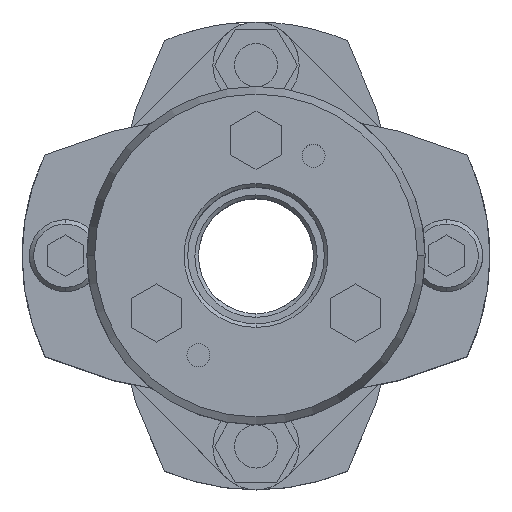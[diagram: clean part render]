
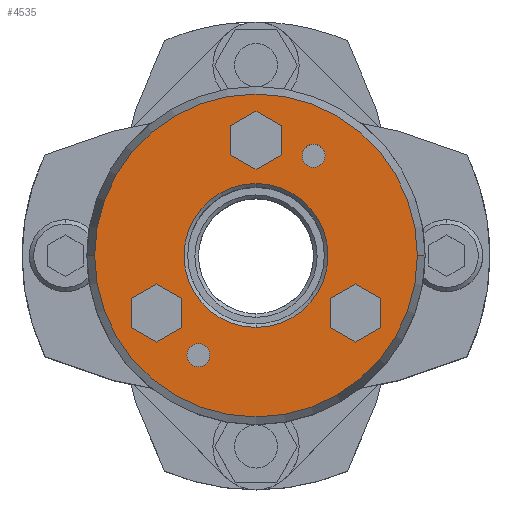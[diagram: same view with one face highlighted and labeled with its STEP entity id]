
A CAD part, top view. The second image highlights one B-rep face of the part: STEP entity #4535.
In plain terms, the highlighted planar face has unit normal (0, 0, 1).
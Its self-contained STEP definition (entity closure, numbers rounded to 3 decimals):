
#2241=CARTESIAN_POINT('',(-22.428,0.,40.0));
#2242=VERTEX_POINT('',#2241);
#2251=CARTESIAN_POINT('',(22.428,0.,40.0));
#2252=VERTEX_POINT('',#2251);
#2253=CARTESIAN_POINT('',(0.,0.,40.0));
#2254=DIRECTION('',(0.0,0.0,-1.0));
#2255=DIRECTION('',(-1.0,0.0,0.0));
#2256=AXIS2_PLACEMENT_3D('',#2253,#2254,#2255);
#2257=CIRCLE('',#2256,22.428);
#2258=EDGE_CURVE('',#2242,#2252,#2257,.T.);
#2285=CARTESIAN_POINT('',(0.,10.,40.0));
#2286=VERTEX_POINT('',#2285);
#2302=CARTESIAN_POINT('',(0.,-10.,40.0));
#2303=VERTEX_POINT('',#2302);
#2310=CARTESIAN_POINT('',(0.,0.,40.0));
#2311=DIRECTION('',(0.0,0.0,1.0));
#2312=DIRECTION('',(0.0,1.0,0.0));
#2313=AXIS2_PLACEMENT_3D('',#2310,#2311,#2312);
#2314=CIRCLE('',#2313,10.0);
#2315=EDGE_CURVE('',#2303,#2286,#2314,.T.);
#2723=CARTESIAN_POINT('',(8.,15.456,40.0));
#2724=VERTEX_POINT('',#2723);
#2740=CARTESIAN_POINT('',(8.,12.256,40.0));
#2741=VERTEX_POINT('',#2740);
#2748=CARTESIAN_POINT('',(8.,13.856,40.0));
#2749=DIRECTION('',(0.0,0.0,-1.0));
#2750=DIRECTION('',(0.0,1.0,0.0));
#2751=AXIS2_PLACEMENT_3D('',#2748,#2749,#2750);
#2752=CIRCLE('',#2751,1.6);
#2753=EDGE_CURVE('',#2724,#2741,#2752,.T.);
#2765=CARTESIAN_POINT('',(-8.,-12.256,40.0));
#2766=VERTEX_POINT('',#2765);
#2782=CARTESIAN_POINT('',(-8.,-15.456,40.0));
#2783=VERTEX_POINT('',#2782);
#2790=CARTESIAN_POINT('',(-8.,-13.856,40.0));
#2791=DIRECTION('',(0.0,0.0,-1.0));
#2792=DIRECTION('',(0.0,1.0,0.0));
#2793=AXIS2_PLACEMENT_3D('',#2790,#2791,#2792);
#2794=CIRCLE('',#2793,1.6);
#2795=EDGE_CURVE('',#2766,#2783,#2794,.T.);
#2897=CARTESIAN_POINT('',(0.,20.041,40.0));
#2898=VERTEX_POINT('',#2897);
#2905=CARTESIAN_POINT('',(-3.5,18.021,40.0));
#2906=VERTEX_POINT('',#2905);
#2907=CARTESIAN_POINT('',(-3.5,18.021,40.0));
#2908=DIRECTION('',(0.866,0.5,0.0));
#2909=VECTOR('',#2908,4.041);
#2910=LINE('',#2907,#2909);
#2911=EDGE_CURVE('',#2906,#2898,#2910,.T.);
#2935=CARTESIAN_POINT('',(3.5,18.021,40.0));
#2936=VERTEX_POINT('',#2935);
#2943=CARTESIAN_POINT('',(0.,20.041,40.0));
#2944=DIRECTION('',(0.866,-0.5,0.0));
#2945=VECTOR('',#2944,4.041);
#2946=LINE('',#2943,#2945);
#2947=EDGE_CURVE('',#2898,#2936,#2946,.T.);
#2966=CARTESIAN_POINT('',(3.5,13.979,40.0));
#2967=VERTEX_POINT('',#2966);
#2974=CARTESIAN_POINT('',(3.5,18.021,40.0));
#2975=DIRECTION('',(0.0,-1.0,0.0));
#2976=VECTOR('',#2975,4.041);
#2977=LINE('',#2974,#2976);
#2978=EDGE_CURVE('',#2936,#2967,#2977,.T.);
#2997=CARTESIAN_POINT('',(0.,11.959,40.0));
#2998=VERTEX_POINT('',#2997);
#3005=CARTESIAN_POINT('',(3.5,13.979,40.0));
#3006=DIRECTION('',(-0.866,-0.5,0.0));
#3007=VECTOR('',#3006,4.041);
#3008=LINE('',#3005,#3007);
#3009=EDGE_CURVE('',#2967,#2998,#3008,.T.);
#3028=CARTESIAN_POINT('',(-3.5,13.979,40.0));
#3029=VERTEX_POINT('',#3028);
#3036=CARTESIAN_POINT('',(0.,11.959,40.0));
#3037=DIRECTION('',(-0.866,0.5,0.0));
#3038=VECTOR('',#3037,4.041);
#3039=LINE('',#3036,#3038);
#3040=EDGE_CURVE('',#2998,#3029,#3039,.T.);
#3058=CARTESIAN_POINT('',(-3.5,13.979,40.0));
#3059=DIRECTION('',(0.0,1.0,0.0));
#3060=VECTOR('',#3059,4.041);
#3061=LINE('',#3058,#3060);
#3062=EDGE_CURVE('',#3029,#2906,#3061,.T.);
#3097=CARTESIAN_POINT('',(13.856,-3.959,40.0));
#3098=VERTEX_POINT('',#3097);
#3105=CARTESIAN_POINT('',(10.356,-5.979,40.0));
#3106=VERTEX_POINT('',#3105);
#3107=CARTESIAN_POINT('',(10.356,-5.979,40.0));
#3108=DIRECTION('',(0.866,0.5,0.0));
#3109=VECTOR('',#3108,4.041);
#3110=LINE('',#3107,#3109);
#3111=EDGE_CURVE('',#3106,#3098,#3110,.T.);
#3135=CARTESIAN_POINT('',(17.356,-5.979,40.0));
#3136=VERTEX_POINT('',#3135);
#3143=CARTESIAN_POINT('',(13.856,-3.959,40.0));
#3144=DIRECTION('',(0.866,-0.5,0.0));
#3145=VECTOR('',#3144,4.041);
#3146=LINE('',#3143,#3145);
#3147=EDGE_CURVE('',#3098,#3136,#3146,.T.);
#3166=CARTESIAN_POINT('',(17.356,-10.021,40.0));
#3167=VERTEX_POINT('',#3166);
#3174=CARTESIAN_POINT('',(17.356,-5.979,40.0));
#3175=DIRECTION('',(0.0,-1.0,0.0));
#3176=VECTOR('',#3175,4.041);
#3177=LINE('',#3174,#3176);
#3178=EDGE_CURVE('',#3136,#3167,#3177,.T.);
#3197=CARTESIAN_POINT('',(13.856,-12.041,40.0));
#3198=VERTEX_POINT('',#3197);
#3205=CARTESIAN_POINT('',(17.356,-10.021,40.0));
#3206=DIRECTION('',(-0.866,-0.5,0.0));
#3207=VECTOR('',#3206,4.041);
#3208=LINE('',#3205,#3207);
#3209=EDGE_CURVE('',#3167,#3198,#3208,.T.);
#3228=CARTESIAN_POINT('',(10.356,-10.021,40.0));
#3229=VERTEX_POINT('',#3228);
#3236=CARTESIAN_POINT('',(13.856,-12.041,40.0));
#3237=DIRECTION('',(-0.866,0.5,0.0));
#3238=VECTOR('',#3237,4.041);
#3239=LINE('',#3236,#3238);
#3240=EDGE_CURVE('',#3198,#3229,#3239,.T.);
#3258=CARTESIAN_POINT('',(10.356,-10.021,40.0));
#3259=DIRECTION('',(0.0,1.0,0.0));
#3260=VECTOR('',#3259,4.041);
#3261=LINE('',#3258,#3260);
#3262=EDGE_CURVE('',#3229,#3106,#3261,.T.);
#3297=CARTESIAN_POINT('',(-13.856,-3.959,40.0));
#3298=VERTEX_POINT('',#3297);
#3305=CARTESIAN_POINT('',(-17.356,-5.979,40.0));
#3306=VERTEX_POINT('',#3305);
#3307=CARTESIAN_POINT('',(-17.356,-5.979,40.0));
#3308=DIRECTION('',(0.866,0.5,0.0));
#3309=VECTOR('',#3308,4.041);
#3310=LINE('',#3307,#3309);
#3311=EDGE_CURVE('',#3306,#3298,#3310,.T.);
#3335=CARTESIAN_POINT('',(-10.356,-5.979,40.0));
#3336=VERTEX_POINT('',#3335);
#3343=CARTESIAN_POINT('',(-13.856,-3.959,40.0));
#3344=DIRECTION('',(0.866,-0.5,0.0));
#3345=VECTOR('',#3344,4.041);
#3346=LINE('',#3343,#3345);
#3347=EDGE_CURVE('',#3298,#3336,#3346,.T.);
#3366=CARTESIAN_POINT('',(-10.356,-10.021,40.0));
#3367=VERTEX_POINT('',#3366);
#3374=CARTESIAN_POINT('',(-10.356,-5.979,40.0));
#3375=DIRECTION('',(0.0,-1.0,0.0));
#3376=VECTOR('',#3375,4.041);
#3377=LINE('',#3374,#3376);
#3378=EDGE_CURVE('',#3336,#3367,#3377,.T.);
#3397=CARTESIAN_POINT('',(-13.856,-12.041,40.0));
#3398=VERTEX_POINT('',#3397);
#3405=CARTESIAN_POINT('',(-10.356,-10.021,40.0));
#3406=DIRECTION('',(-0.866,-0.5,0.0));
#3407=VECTOR('',#3406,4.041);
#3408=LINE('',#3405,#3407);
#3409=EDGE_CURVE('',#3367,#3398,#3408,.T.);
#3428=CARTESIAN_POINT('',(-17.356,-10.021,40.0));
#3429=VERTEX_POINT('',#3428);
#3436=CARTESIAN_POINT('',(-13.856,-12.041,40.0));
#3437=DIRECTION('',(-0.866,0.5,0.0));
#3438=VECTOR('',#3437,4.041);
#3439=LINE('',#3436,#3438);
#3440=EDGE_CURVE('',#3398,#3429,#3439,.T.);
#3458=CARTESIAN_POINT('',(-17.356,-10.021,40.0));
#3459=DIRECTION('',(0.0,1.0,0.0));
#3460=VECTOR('',#3459,4.041);
#3461=LINE('',#3458,#3460);
#3462=EDGE_CURVE('',#3429,#3306,#3461,.T.);
#3488=CARTESIAN_POINT('',(-8.,-13.856,40.0));
#3489=DIRECTION('',(0.0,0.0,-1.0));
#3490=DIRECTION('',(0.0,1.0,0.0));
#3491=AXIS2_PLACEMENT_3D('',#3488,#3489,#3490);
#3492=CIRCLE('',#3491,1.6);
#3493=EDGE_CURVE('',#2783,#2766,#3492,.T.);
#3522=CARTESIAN_POINT('',(8.,13.856,40.0));
#3523=DIRECTION('',(0.0,0.0,-1.0));
#3524=DIRECTION('',(0.0,1.0,0.0));
#3525=AXIS2_PLACEMENT_3D('',#3522,#3523,#3524);
#3526=CIRCLE('',#3525,1.6);
#3527=EDGE_CURVE('',#2741,#2724,#3526,.T.);
#4472=CARTESIAN_POINT('',(0.,0.,40.0));
#4473=DIRECTION('',(0.0,0.0,1.0));
#4474=DIRECTION('',(0.0,1.0,0.0));
#4475=AXIS2_PLACEMENT_3D('',#4472,#4473,#4474);
#4476=CIRCLE('',#4475,10.0);
#4477=EDGE_CURVE('',#2286,#2303,#4476,.T.);
#4484=CARTESIAN_POINT('',(-9.964,0.,40.0));
#4485=DIRECTION('',(0.0,0.0,1.0));
#4486=DIRECTION('',(0.0,1.0,0.0));
#4487=AXIS2_PLACEMENT_3D('',#4484,#4485,#4486);
#4488=PLANE('',#4487);
#4489=ORIENTED_EDGE('',*,*,#2258,.F.);
#4490=CARTESIAN_POINT('',(0.,0.,40.0));
#4491=DIRECTION('',(0.0,0.0,-1.0));
#4492=DIRECTION('',(-1.0,0.0,0.0));
#4493=AXIS2_PLACEMENT_3D('',#4490,#4491,#4492);
#4494=CIRCLE('',#4493,22.428);
#4495=EDGE_CURVE('',#2252,#2242,#4494,.T.);
#4496=ORIENTED_EDGE('',*,*,#4495,.F.);
#4497=EDGE_LOOP('',(#4489,#4496));
#4498=FACE_OUTER_BOUND('',#4497,.T.);
#4499=ORIENTED_EDGE('',*,*,#2911,.T.);
#4500=ORIENTED_EDGE('',*,*,#2947,.T.);
#4501=ORIENTED_EDGE('',*,*,#2978,.T.);
#4502=ORIENTED_EDGE('',*,*,#3009,.T.);
#4503=ORIENTED_EDGE('',*,*,#3040,.T.);
#4504=ORIENTED_EDGE('',*,*,#3062,.T.);
#4505=EDGE_LOOP('',(#4499,#4500,#4501,#4502,#4503,#4504));
#4506=FACE_BOUND('',#4505,.T.);
#4507=ORIENTED_EDGE('',*,*,#3111,.T.);
#4508=ORIENTED_EDGE('',*,*,#3147,.T.);
#4509=ORIENTED_EDGE('',*,*,#3178,.T.);
#4510=ORIENTED_EDGE('',*,*,#3209,.T.);
#4511=ORIENTED_EDGE('',*,*,#3240,.T.);
#4512=ORIENTED_EDGE('',*,*,#3262,.T.);
#4513=EDGE_LOOP('',(#4507,#4508,#4509,#4510,#4511,#4512));
#4514=FACE_BOUND('',#4513,.T.);
#4515=ORIENTED_EDGE('',*,*,#3311,.T.);
#4516=ORIENTED_EDGE('',*,*,#3347,.T.);
#4517=ORIENTED_EDGE('',*,*,#3378,.T.);
#4518=ORIENTED_EDGE('',*,*,#3409,.T.);
#4519=ORIENTED_EDGE('',*,*,#3440,.T.);
#4520=ORIENTED_EDGE('',*,*,#3462,.T.);
#4521=EDGE_LOOP('',(#4515,#4516,#4517,#4518,#4519,#4520));
#4522=FACE_BOUND('',#4521,.T.);
#4523=ORIENTED_EDGE('',*,*,#2795,.T.);
#4524=ORIENTED_EDGE('',*,*,#3493,.T.);
#4525=EDGE_LOOP('',(#4523,#4524));
#4526=FACE_BOUND('',#4525,.T.);
#4527=ORIENTED_EDGE('',*,*,#2753,.T.);
#4528=ORIENTED_EDGE('',*,*,#3527,.T.);
#4529=EDGE_LOOP('',(#4527,#4528));
#4530=FACE_BOUND('',#4529,.T.);
#4531=ORIENTED_EDGE('',*,*,#2315,.F.);
#4532=ORIENTED_EDGE('',*,*,#4477,.F.);
#4533=EDGE_LOOP('',(#4531,#4532));
#4534=FACE_BOUND('',#4533,.T.);
#4535=ADVANCED_FACE('',(#4498,#4506,#4514,#4522,#4526,#4530,#4534),#4488,.T.);
